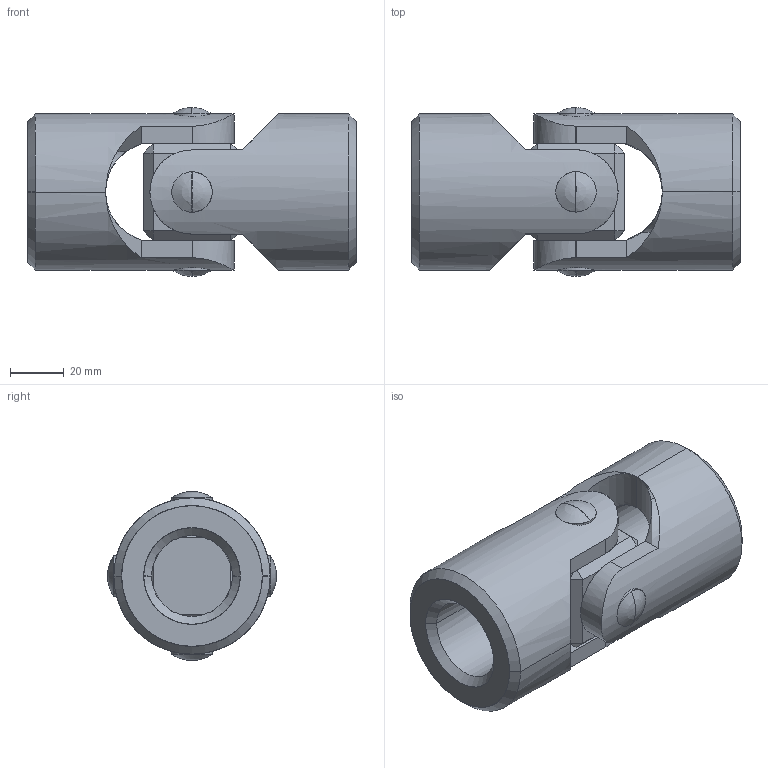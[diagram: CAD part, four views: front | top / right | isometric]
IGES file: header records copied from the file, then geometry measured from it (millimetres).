
Start section: SolidWorks IGES file using analytic representation for surfaces
Global section: file name: E:\WIXROYD\65186_v2\65186_v2_20180418_IGES\65186.W0030.igs; native system: SolidWorks 2017; preprocessor: SolidWorks 2017; author: liam_; date: 180618.201819; units: millimetre
Bounding box: 122 x 62.64 x 62.64 mm (x, y, z)
Surface area: 52161.2 mm2 (no closed solid volume)
Topology: 0 solids, 0 shells, 100 faces, 2132 edges, 2128 vertices
Faces by surface type: revolution 52, bspline 48
